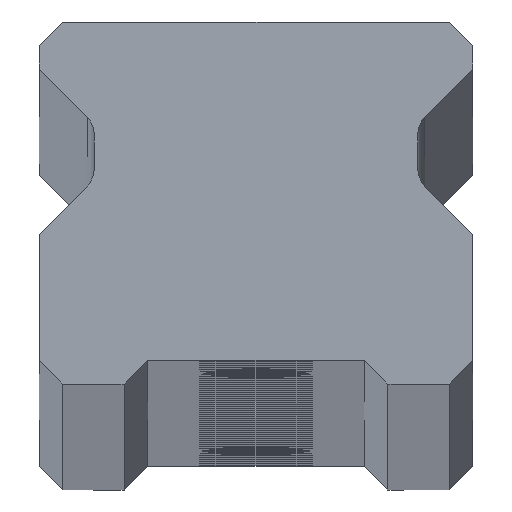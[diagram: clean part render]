
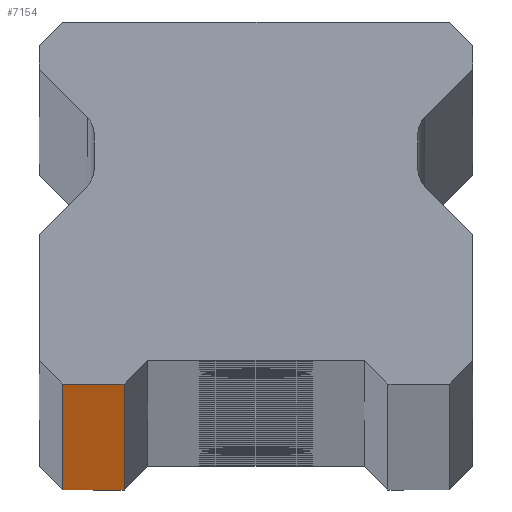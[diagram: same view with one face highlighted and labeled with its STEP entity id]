
A CAD part, top view. The second image highlights one B-rep face of the part: STEP entity #7154.
In plain terms, the highlighted planar face has unit normal (0, -1, 0).
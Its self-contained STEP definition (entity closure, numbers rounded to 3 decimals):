
#306 = ORIENTED_EDGE ( 'NONE', *, *, #523, .F. ) ;
#335 = DIRECTION ( 'NONE',  ( 0., 0., 1. ) ) ;
#411 = CARTESIAN_POINT ( 'NONE',  ( -10.25, 0., 1610. ) ) ;
#523 = EDGE_CURVE ( 'NONE', #7210, #3490, #608, .T. ) ;
#608 = LINE ( 'NONE', #4457, #8560 ) ;
#657 = DIRECTION ( 'NONE',  ( 0., 1., 0. ) ) ;
#662 = CARTESIAN_POINT ( 'NONE',  ( -7., 0., 1610. ) ) ;
#1115 = CARTESIAN_POINT ( 'NONE',  ( -7., 0., -1610. ) ) ;
#1223 = DIRECTION ( 'NONE',  ( 0., 0., -1. ) ) ;
#1301 = CARTESIAN_POINT ( 'NONE',  ( 11.5, 0., -1610. ) ) ;
#1576 = VECTOR ( 'NONE', #335, 1000. ) ;
#1609 = CARTESIAN_POINT ( 'NONE',  ( 11.5, 0., 1610. ) ) ;
#2070 = FACE_OUTER_BOUND ( 'NONE', #4375, .T. ) ;
#2728 = CARTESIAN_POINT ( 'NONE',  ( -10.25, 0., -1610. ) ) ;
#2968 = ORIENTED_EDGE ( 'NONE', *, *, #4033, .T. ) ;
#3490 = VERTEX_POINT ( 'NONE', #662 ) ;
#3815 = LINE ( 'NONE', #411, #9775 ) ;
#3946 = AXIS2_PLACEMENT_3D ( 'NONE', #1609, #657, #7320 ) ;
#3993 = PLANE ( 'NONE',  #3946 ) ;
#4033 = EDGE_CURVE ( 'NONE', #6487, #3490, #10317, .T. ) ;
#4122 = EDGE_CURVE ( 'NONE', #7210, #6340, #3815, .T. ) ;
#4375 = EDGE_LOOP ( 'NONE', ( #6413, #2968, #306, #8960 ) ) ;
#4457 = CARTESIAN_POINT ( 'NONE',  ( 11.5, 0., 1610. ) ) ;
#5267 = DIRECTION ( 'NONE',  ( 1., 0., 0. ) ) ;
#5526 = DIRECTION ( 'NONE',  ( 1., 0., 0. ) ) ;
#6340 = VERTEX_POINT ( 'NONE', #2728 ) ;
#6413 = ORIENTED_EDGE ( 'NONE', *, *, #10616, .T. ) ;
#6487 = VERTEX_POINT ( 'NONE', #1115 ) ;
#7154 = ADVANCED_FACE ( 'NONE', ( #2070 ), #3993, .F. ) ;
#7210 = VERTEX_POINT ( 'NONE', #7642 ) ;
#7320 = DIRECTION ( 'NONE',  ( -1., 0., 0. ) ) ;
#7642 = CARTESIAN_POINT ( 'NONE',  ( -10.25, 0., 1610. ) ) ;
#8560 = VECTOR ( 'NONE', #5267, 1000. ) ;
#8896 = LINE ( 'NONE', #1301, #10610 ) ;
#8960 = ORIENTED_EDGE ( 'NONE', *, *, #4122, .T. ) ;
#9775 = VECTOR ( 'NONE', #1223, 1000. ) ;
#10222 = CARTESIAN_POINT ( 'NONE',  ( -7., 0., -1610. ) ) ;
#10317 = LINE ( 'NONE', #10222, #1576 ) ;
#10610 = VECTOR ( 'NONE', #5526, 1000. ) ;
#10616 = EDGE_CURVE ( 'NONE', #6340, #6487, #8896, .T. ) ;
